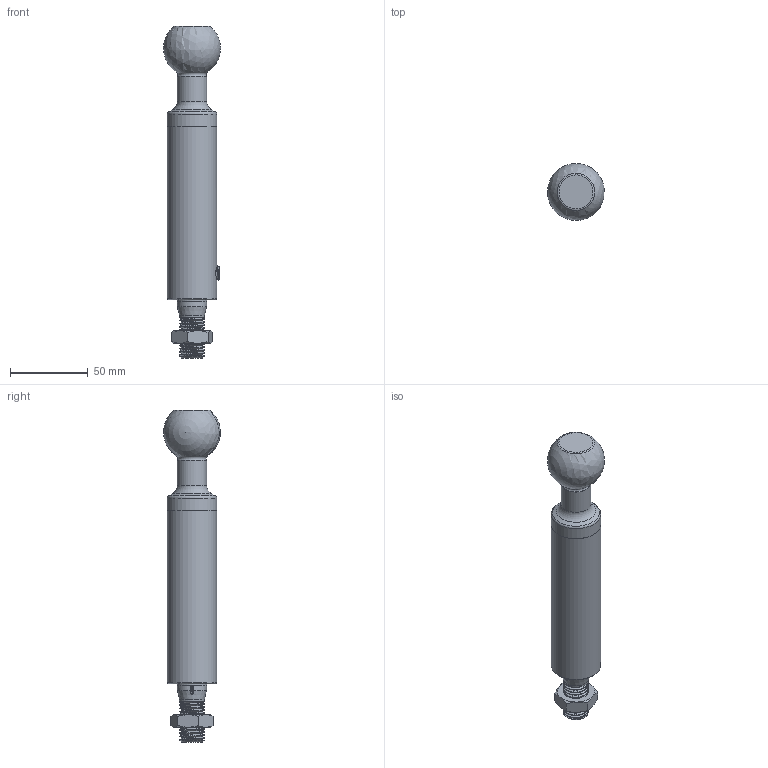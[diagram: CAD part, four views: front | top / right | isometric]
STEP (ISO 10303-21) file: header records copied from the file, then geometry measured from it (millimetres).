
FILE_DESCRIPTION(/* description */ (''),/* implementation_level */ '2;1');
FILE_NAME(/* name */ 'C:\Users\owner\Desktop\HDPL-POSTS_3D_stp\HDPL-TPOST2IN-THD.stp',/* time_stamp */ '2017-10-02T09:21:34-04:00',/* author */ ('owner'),/* organization */ (''),/* preprocessor_version */ 'ST-DEVELOPER v16.5',/* originating_system */ 'Autodesk Inventor 2017',/* authorisation */ '');
FILE_SCHEMA (('CONFIG_CONTROL_DESIGN'));
Length unit declared in the file: inch
Products named in the file (7): PL-HDTPOST2IN-THD; 60069; 60067; 60070; 60075; #92775; #90710
Assembly tree (6 placements, depth 2):
  PL-HDTPOST2IN-THD
    60069
    60067
    60070
    60075
    #92775
    #90710
Bounding box: 36.65 x 36.42 x 213.14 mm (x, y, z)
Volume: 134177 mm3; surface area: 43536.3 mm2
Topology: 7 solids, 7 shells, 987 faces, 2648 edges, 1744 vertices
Faces by surface type: plane 417, bspline 405, cylinder 108, cone 35, torus 21, sphere 1
Full cylindrical faces by diameter (mm): 7 x1, 8.382 x1, 9.131 x1, 10.033 x1, 10.668 x1, 10.744 x1, 10.757 x2, 13.392 x2, 18.796 x1, 18.923 x1, 19.05 x1, 19.446 x1, 19.482 x1, 22.123 x1, 22.187 x1, 22.225 x2, 31.75 x2
Entity records: 47605 total; most frequent: CARTESIAN_POINT 25766, ORIENTED_EDGE 5048, DIRECTION 3341, EDGE_CURVE 2524, VERTEX_POINT 1694, LINE 1195, VECTOR 1195, EDGE_LOOP 1132
